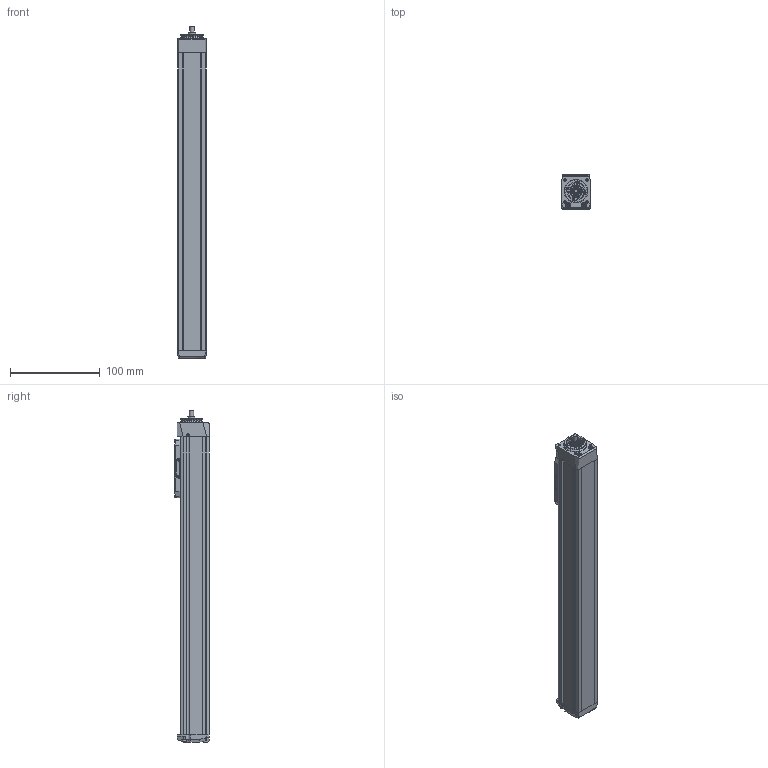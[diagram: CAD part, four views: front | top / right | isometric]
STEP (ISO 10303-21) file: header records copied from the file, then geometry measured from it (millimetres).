
FILE_DESCRIPTION(/* description */ ('STEP AP214'),/* implementation_level */ '2;1');
FILE_NAME(/* name */ 'MGBS 32 0802 250(0)',/* time_stamp */ '2023-04-12T10:42:32+02:00',/* author */ ('License CC BY-ND 4.0'),/* organization */ ('CADENAS'),/* preprocessor_version */ 'ST-DEVELOPER v19.3',/* originating_system */ 'PARTsolutions',/* authorisation */ ' ');
FILE_SCHEMA (('AUTOMOTIVE_DESIGN {1 0 10303 214 3 1 1}'));
Length unit declared in the file: millimetre
Products named in the file (6): MGBS 32 0802 250(0); MGBS 32 250_protection_strip; MGBS 32_carriage; MGBS 32_end_block; MGBS 32 250_profile; MGBS 32_drive_block
Assembly tree (5 placements, depth 2):
  MGBS 32 0802 250(0)
    MGBS 32 250_protection_strip
    MGBS 32_carriage
    MGBS 32_end_block
    MGBS 32 250_profile
    MGBS 32_drive_block
Bounding box: 32 x 38.5 x 369.5 mm (x, y, z)
Volume: 345376.4 mm3; surface area: 89261.9 mm2
Topology: 5 solids, 5 shells, 638 faces, 1686 edges, 1092 vertices
Faces by surface type: plane 301, cylinder 160, cone 94, bspline 56, torus 25, sphere 2
Full cylindrical faces by diameter (mm): 0.3 x1, 1.567 x4, 1.755 x4, 1.8 x2, 2 x2, 2.3 x4, 2.459 x8, 2.46 x4, 2.5 x11, 3 x1, 3.8 x4, 4.5 x6, 5 x5, 7.5 x1, 8 x1, 10 x1, 13.84 x1, 14.2 x1, 17.8 x1, 18.16 x1, 19.5 x1, 25 x2, 25.7 x1
Entity records: 23436 total; most frequent: CARTESIAN_POINT 4050, DIRECTION 3216, ORIENTED_EDGE 2990, EDGE_CURVE 1495, AXIS2_PLACEMENT_3D 1173, VERTEX_POINT 1077, LINE 870, VECTOR 870
